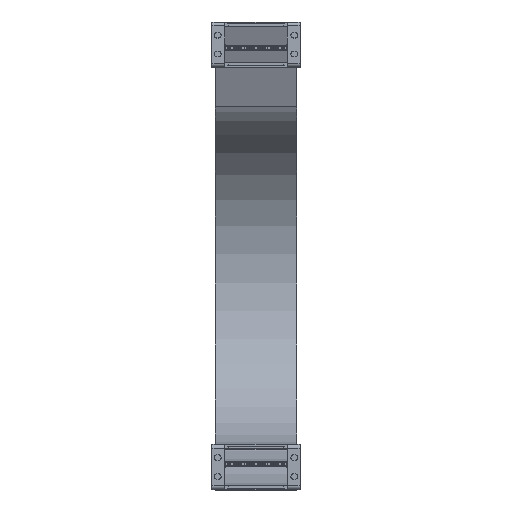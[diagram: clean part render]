
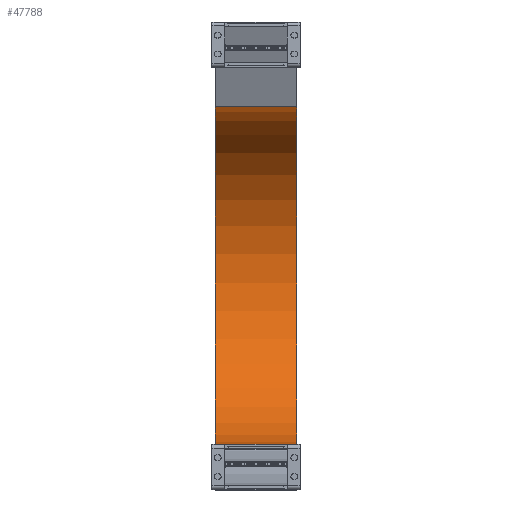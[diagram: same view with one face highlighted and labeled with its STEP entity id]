
A CAD part, top view. The second image highlights one B-rep face of the part: STEP entity #47788.
In plain terms, the highlighted cylindrical face has radius 134.5 mm (diameter 269 mm), a partial arc.
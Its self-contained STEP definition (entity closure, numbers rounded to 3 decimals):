
#46940=DIRECTION('',(-1.,0.,0.));
#46941=VECTOR('',#46940,65.);
#46942=CARTESIAN_POINT('',(32.5,36.,-400.));
#46943=LINE('',#46942,#46941);
#46954=DIRECTION('',(-1.,0.,0.));
#46955=VECTOR('',#46954,65.);
#46956=CARTESIAN_POINT('',(32.5,304.499,-411.602));
#46957=LINE('',#46956,#46955);
#46961=CARTESIAN_POINT('',(32.5,170.5,-400.));
#46962=DIRECTION('',(-1.,0.,0.));
#46963=DIRECTION('',(0.,0.996,-0.086));
#46964=AXIS2_PLACEMENT_3D('',#46961,#46962,#46963);
#47040=CARTESIAN_POINT('',(-32.5,170.5,-400.));
#47041=DIRECTION('',(-1.,0.,0.));
#47042=DIRECTION('',(0.,0.996,-0.086));
#47043=AXIS2_PLACEMENT_3D('',#47040,#47041,#47042);
#47162=CARTESIAN_POINT('',(32.5,304.499,-411.602));
#47163=CARTESIAN_POINT('',(-32.5,304.499,-411.602));
#47164=VERTEX_POINT('',#47162);
#47165=VERTEX_POINT('',#47163);
#47186=CARTESIAN_POINT('',(32.5,36.,-400.));
#47187=CARTESIAN_POINT('',(-32.5,36.,-400.));
#47188=VERTEX_POINT('',#47186);
#47189=VERTEX_POINT('',#47187);
#47774=CARTESIAN_POINT('',(1.,170.5,-400.));
#47775=DIRECTION('',(-1.,0.,0.));
#47776=DIRECTION('',(0.,-0.996,0.086));
#47777=AXIS2_PLACEMENT_3D('',#47774,#47775,#47776);
#47778=CYLINDRICAL_SURFACE('',#47777,134.5);
#47780=ORIENTED_EDGE('',*,*,#47779,.F.);
#47782=ORIENTED_EDGE('',*,*,#47781,.T.);
#47783=ORIENTED_EDGE('',*,*,#47757,.T.);
#47785=ORIENTED_EDGE('',*,*,#47784,.F.);
#47786=EDGE_LOOP('',(#47780,#47782,#47783,#47785));
#47787=FACE_OUTER_BOUND('',#47786,.F.);
#46965=CIRCLE('',#46964,134.5);
#47044=CIRCLE('',#47043,134.5);
#47757=EDGE_CURVE('',#47188,#47189,#46943,.T.);
#47779=EDGE_CURVE('',#47164,#47165,#46957,.T.);
#47781=EDGE_CURVE('',#47164,#47188,#46965,.T.);
#47784=EDGE_CURVE('',#47165,#47189,#47044,.T.);
#47788=ADVANCED_FACE('',(#47787),#47778,.F.);
